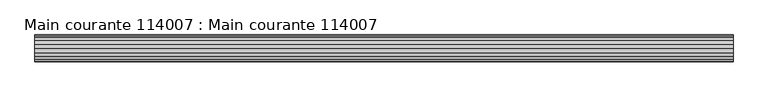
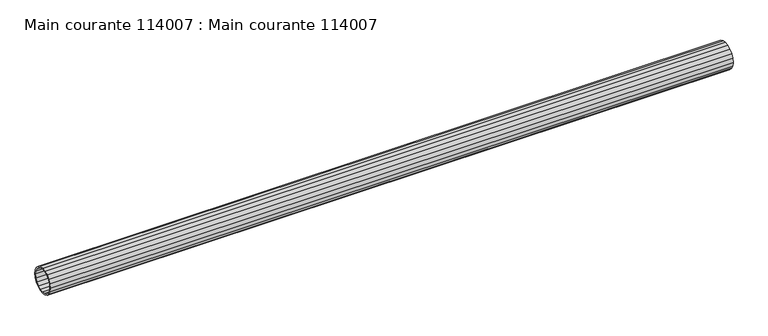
"""IFC4 building model written with IfcOpenShell, lengths in millimetres: beam geometry, Main courante 114007 : Main courante 114007."""

from ifc_helpers import new_model, si_unit, frame, origin, place, context, project, spatial, polyline, outline, extrude, source, transform, mapped, element, save


def main_courante_114007_main_courante_114007_b38bcc6f(model_context):
    return source(origin(), model_context, "Body", "SweptSolid", [
        extrude(outline(polyline([(-35766.5, 8765.0), (-35765.3180149, 8772.4627604), (-35761.8877604, 8779.1950138), (-35756.5450138, 8784.5377604), (-35749.8127604, 8787.9680149), (-35742.35, 8789.15), (-35734.8872396, 8787.9680149), (-35728.1549862, 8784.5377604), (-35722.8122396, 8779.1950138), (-35719.3819851, 8772.4627604), (-35718.2, 8765.0), (-35719.3819851, 8757.5372396), (-35722.8122396, 8750.8049862), (-35728.1549862, 8745.4622396), (-35734.8872396, 8742.0319851), (-35742.35, 8740.85), (-35749.8127604, 8742.0319851), (-35756.5450138, 8745.4622396), (-35761.8877604, 8750.8049862), (-35765.3180149, 8757.5372396), (-35766.5, 8765.0)]), holes=[polyline([(-35720.7, 8765.0), (-35721.7596264, 8771.6902179), (-35724.8347821, 8777.7255507), (-35729.6244493, 8782.5152179), (-35735.6597821, 8785.5903736), (-35742.35, 8786.65), (-35749.0402179, 8785.5903736), (-35755.0755507, 8782.5152179), (-35759.8652179, 8777.7255507), (-35762.9403736, 8771.6902179), (-35764.0, 8765.0), (-35762.9403736, 8758.3097821), (-35759.8652179, 8752.2744493), (-35755.0755507, 8747.4847821), (-35749.0402179, 8744.4096264), (-35742.35, 8743.35), (-35735.6597821, 8744.4096264), (-35729.6244493, 8747.4847821), (-35724.8347821, 8752.2744493), (-35721.7596264, 8758.3097821), (-35720.7, 8765.0)])]), frame((10205.9999999, 0.0, 0.0), z_axis=(1.0, 0.0, 0.0), x_axis=(0.0, 1.0, 0.0)), (0.0, 0.0, 1.0), 1249.2815708),
    ])


if __name__ == "__main__":
    model = new_model("IFC4")
    model_context = context("Model", 3, world=origin())
    ifc_project = project(units=[si_unit("LENGTHUNIT", "METRE", prefix="MILLI")], contexts=[model_context])
    site = spatial("IfcSite", under=ifc_project)
    building = spatial("IfcBuilding", under=site)
    placement = place(None, origin())
    main_courante_114007_main_courante_114007_shape = main_courante_114007_main_courante_114007_b38bcc6f(model_context)
    element("IfcBeam", 1, ObjectType="Main courante 114007 : Main courante 114007", at=placement, inside=building, context=model_context, shape_type="MappedRepresentation", body=[
        mapped(main_courante_114007_main_courante_114007_shape, transform((0.0, 0.0, 0.0), x_axis=(1.0, 0.0, 0.0), y_axis=(0.0, 1.0, 0.0), z_axis=(0.0, 0.0, 1.0))),
    ])
    save(model, "model.ifc")
